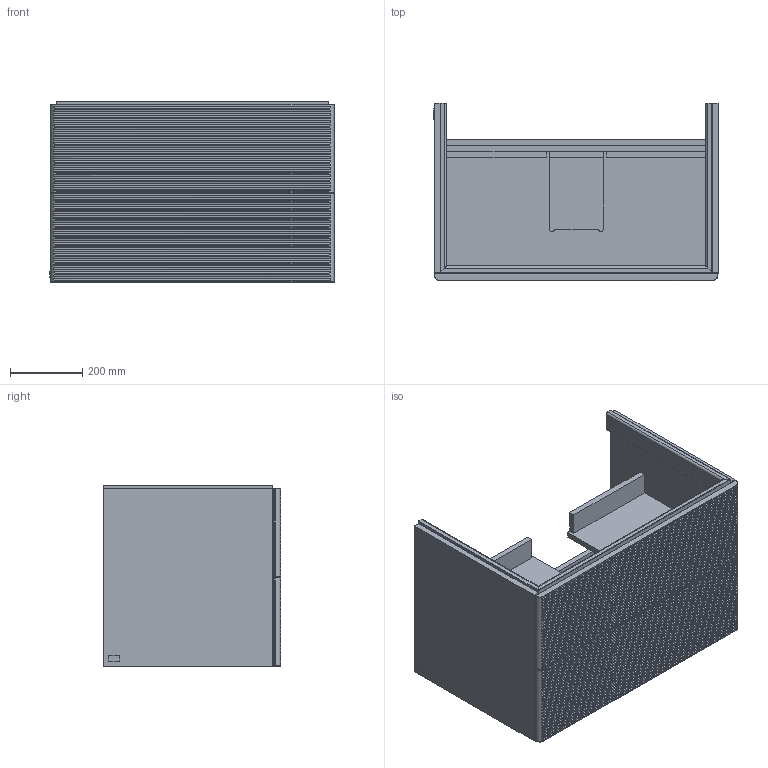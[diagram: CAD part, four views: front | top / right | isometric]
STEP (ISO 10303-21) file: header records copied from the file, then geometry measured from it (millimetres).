
FILE_DESCRIPTION((' '),'2;1');
FILE_NAME('M:\DWG\MÖBEL\3D-Zeichnungen Typen\Antao\STP vereinfacht\K041_L041.stp','2023-04-05T09:39:34',(' '),(' '),' ','ACIS',' ');
FILE_SCHEMA(('CONFIG_CONTROL_DESIGN'));
Length unit declared in the file: millimetre
Products named in the file (17): M:\DWG\MÖBEL\3D-Zeichnungen Typen\Antao\STP vereinfacht\K041_L041.stp; Körper1; Körper2; Körper3; Körper4; Körper5; Körper6; Körper7; Körper8; Körper9; Körper10; Körper11; Körper12; Körper13; Körper14; Körper15; Körper16
Assembly tree (16 placements, depth 2):
  M:\DWG\MÖBEL\3D-Zeichnungen Typen\Antao\STP vereinfacht\K041_L041.stp
    Körper1
    Körper2
    Körper3
    Körper4
    Körper5
    Körper6
    Körper7
    Körper8
    Körper9
    Körper10
    Körper11
    Körper12
    Körper13
    Körper14
    Körper15
    Körper16
Bounding box: 789 x 493 x 504 mm (x, y, z)
Volume: 31920146.1 mm3; surface area: 4380627.6 mm2
Topology: 16 solids, 16 shells, 378 faces, 998 edges, 648 vertices
Faces by surface type: plane 288, cylinder 78, cone 8, sphere 4
Entity records: 19158 total; most frequent: CARTESIAN_POINT 7381, ORIENTED_EDGE 1988, DIRECTION 1980, EDGE_CURVE 994, AXIS2_PLACEMENT_3D 671, VERTEX_POINT 648, VECTOR 638, LINE 638
